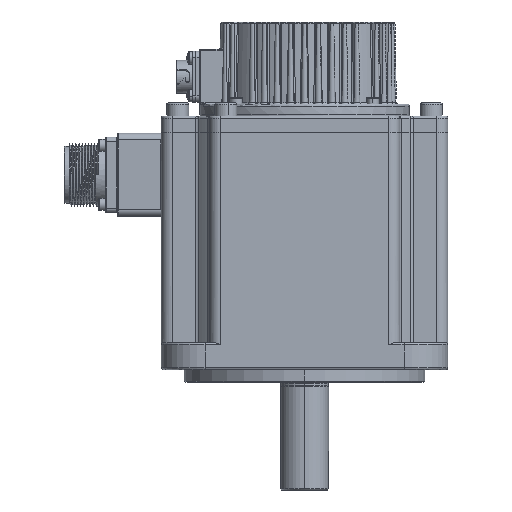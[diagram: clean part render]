
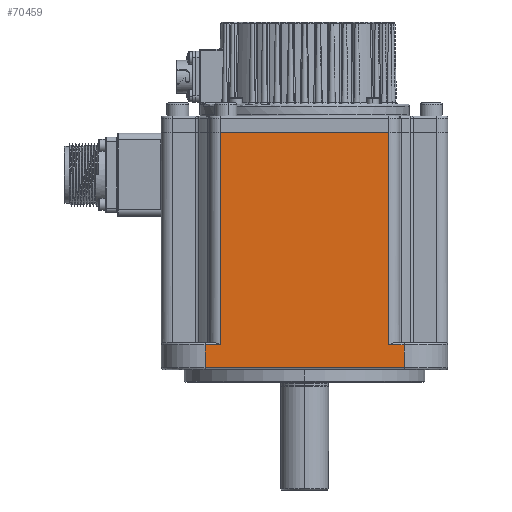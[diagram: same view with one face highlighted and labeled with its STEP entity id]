
A CAD part, left-side view. The second image highlights one B-rep face of the part: STEP entity #70459.
In plain terms, the highlighted planar face has unit normal (-1, 0, 0) as drawn and (1, 0, 0) by its records, which use the part's own axes.
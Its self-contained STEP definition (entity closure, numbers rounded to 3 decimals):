
#895 = VERTEX_POINT ( 'NONE', #102472 ) ;
#5135 = VECTOR ( 'NONE', #15430, 1000. ) ;
#5379 = CARTESIAN_POINT ( 'NONE',  ( 65.5, 0., -1. ) ) ;
#6099 = CARTESIAN_POINT ( 'NONE',  ( 65.5, -45.5, -11.4 ) ) ;
#6577 = VERTEX_POINT ( 'NONE', #6099 ) ;
#6578 = DIRECTION ( 'NONE',  ( 0., 0., 1. ) ) ;
#11110 = CARTESIAN_POINT ( 'NONE',  ( 65.5, -45.5, -21. ) ) ;
#11438 = FACE_OUTER_BOUND ( 'NONE', #75147, .T. ) ;
#12304 = VECTOR ( 'NONE', #91030, 1000. ) ;
#13511 = VERTEX_POINT ( 'NONE', #87888 ) ;
#15430 = DIRECTION ( 'NONE',  ( 0., -1., 0. ) ) ;
#19367 = ORIENTED_EDGE ( 'NONE', *, *, #28173, .T. ) ;
#19761 = DIRECTION ( 'NONE',  ( 0., 0., 1. ) ) ;
#19846 = DIRECTION ( 'NONE',  ( 0., 0., -1. ) ) ;
#26380 = LINE ( 'NONE', #85893, #30089 ) ;
#28173 = EDGE_CURVE ( 'NONE', #51592, #13511, #80483, .T. ) ;
#30089 = VECTOR ( 'NONE', #6578, 1000. ) ;
#32826 = ORIENTED_EDGE ( 'NONE', *, *, #65688, .T. ) ;
#32952 = EDGE_CURVE ( 'NONE', #77670, #13511, #87710, .T. ) ;
#34040 = ORIENTED_EDGE ( 'NONE', *, *, #32952, .F. ) ;
#34499 = VECTOR ( 'NONE', #90670, 1000. ) ;
#35377 = ORIENTED_EDGE ( 'NONE', *, *, #37671, .T. ) ;
#37413 = LINE ( 'NONE', #5379, #5135 ) ;
#37671 = EDGE_CURVE ( 'NONE', #62192, #58040, #26380, .T. ) ;
#41660 = LINE ( 'NONE', #11110, #70100 ) ;
#42941 = CARTESIAN_POINT ( 'NONE',  ( 65.5, 0., -11.4 ) ) ;
#43107 = PLANE ( 'NONE',  #100392 ) ;
#45960 = LINE ( 'NONE', #91315, #60869 ) ;
#46537 = CARTESIAN_POINT ( 'NONE',  ( 65.5, 38.5, -108.5 ) ) ;
#47037 = ORIENTED_EDGE ( 'NONE', *, *, #57377, .T. ) ;
#49651 = CARTESIAN_POINT ( 'NONE',  ( 65.5, 38.5, -11.4 ) ) ;
#50306 = CARTESIAN_POINT ( 'NONE',  ( 65.5, 45.5, -11.4 ) ) ;
#51592 = VERTEX_POINT ( 'NONE', #63609 ) ;
#52521 = LINE ( 'NONE', #42941, #69736 ) ;
#55382 = VECTOR ( 'NONE', #71389, 1000. ) ;
#56810 = LINE ( 'NONE', #99666, #34499 ) ;
#57377 = EDGE_CURVE ( 'NONE', #96944, #62192, #52521, .T. ) ;
#58040 = VERTEX_POINT ( 'NONE', #62281 ) ;
#60869 = VECTOR ( 'NONE', #83354, 1000. ) ;
#62192 = VERTEX_POINT ( 'NONE', #50306 ) ;
#62281 = CARTESIAN_POINT ( 'NONE',  ( 65.5, 45.5, -1. ) ) ;
#63609 = CARTESIAN_POINT ( 'NONE',  ( 65.5, -38.5, -11.4 ) ) ;
#65688 = EDGE_CURVE ( 'NONE', #58040, #895, #37413, .T. ) ;
#66609 = EDGE_CURVE ( 'NONE', #77670, #96944, #45960, .T. ) ;
#67475 = CARTESIAN_POINT ( 'NONE',  ( 65.5, 38.5, -108.5 ) ) ;
#68718 = EDGE_CURVE ( 'NONE', #6577, #51592, #56810, .T. ) ;
#69736 = VECTOR ( 'NONE', #74411, 1000. ) ;
#70100 = VECTOR ( 'NONE', #19761, 1000. ) ;
#70459 = ADVANCED_FACE ( 'NONE', ( #11438 ), #43107, .T. ) ;
#71389 = DIRECTION ( 'NONE',  ( 0., -1., 0. ) ) ;
#74411 = DIRECTION ( 'NONE',  ( 0., 1., 0. ) ) ;
#74938 = CARTESIAN_POINT ( 'NONE',  ( 65.5, 0., -21. ) ) ;
#75147 = EDGE_LOOP ( 'NONE', ( #35377, #32826, #98757, #76287, #19367, #34040, #95642, #47037 ) ) ;
#76287 = ORIENTED_EDGE ( 'NONE', *, *, #68718, .T. ) ;
#77670 = VERTEX_POINT ( 'NONE', #67475 ) ;
#80483 = LINE ( 'NONE', #81710, #12304 ) ;
#81710 = CARTESIAN_POINT ( 'NONE',  ( 65.5, -38.5, -17. ) ) ;
#83354 = DIRECTION ( 'NONE',  ( 0., 0., 1. ) ) ;
#85186 = EDGE_CURVE ( 'NONE', #6577, #895, #41660, .T. ) ;
#85893 = CARTESIAN_POINT ( 'NONE',  ( 65.5, 45.5, -21. ) ) ;
#87710 = LINE ( 'NONE', #46537, #55382 ) ;
#87888 = CARTESIAN_POINT ( 'NONE',  ( 65.5, -38.5, -108.5 ) ) ;
#90670 = DIRECTION ( 'NONE',  ( 0., 1., 0. ) ) ;
#91030 = DIRECTION ( 'NONE',  ( 0., 0., -1. ) ) ;
#91315 = CARTESIAN_POINT ( 'NONE',  ( 65.5, 38.5, -11.4 ) ) ;
#95642 = ORIENTED_EDGE ( 'NONE', *, *, #66609, .T. ) ;
#96944 = VERTEX_POINT ( 'NONE', #49651 ) ;
#98757 = ORIENTED_EDGE ( 'NONE', *, *, #85186, .F. ) ;
#98769 = DIRECTION ( 'NONE',  ( 1., 0., 0. ) ) ;
#99666 = CARTESIAN_POINT ( 'NONE',  ( 65.5, 0., -11.4 ) ) ;
#100392 = AXIS2_PLACEMENT_3D ( 'NONE', #74938, #98769, #19846 ) ;
#102472 = CARTESIAN_POINT ( 'NONE',  ( 65.5, -45.5, -1. ) ) ;
